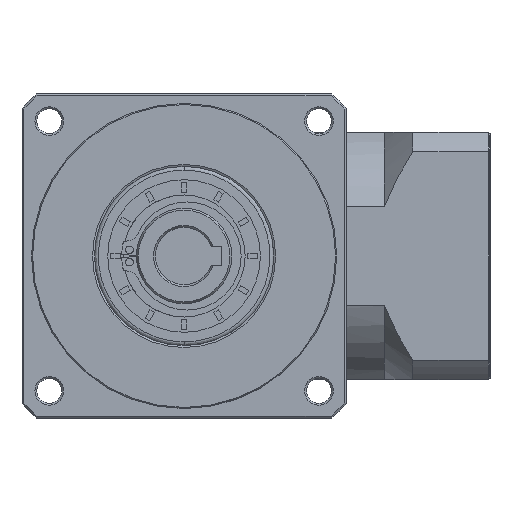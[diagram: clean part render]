
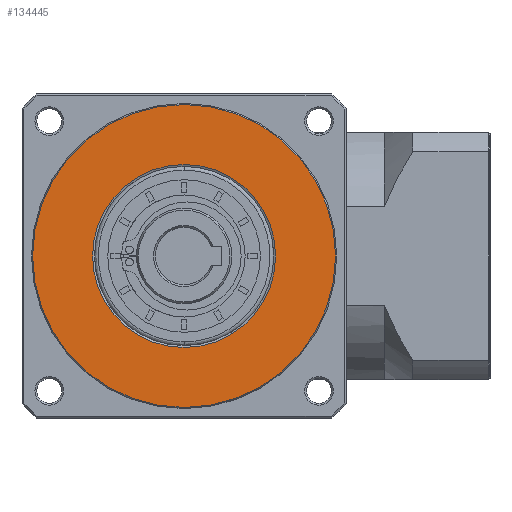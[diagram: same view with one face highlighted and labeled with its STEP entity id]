
A CAD part, left-side view. The second image highlights one B-rep face of the part: STEP entity #134445.
In plain terms, the highlighted planar face has unit normal (-1, 0, 0).
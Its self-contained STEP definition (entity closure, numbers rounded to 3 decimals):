
#2769 = CIRCLE ( 'NONE', #94531, 39.711 ) ;
#15145 = CARTESIAN_POINT ( 'NONE',  ( -137.102, -59.286, -107.407 ) ) ;
#16594 = AXIS2_PLACEMENT_3D ( 'NONE', #66263, #159171, #79654 ) ;
#23774 = PLANE ( 'NONE',  #138455 ) ;
#25245 = CIRCLE ( 'NONE', #16594, 39.711 ) ;
#25366 = ORIENTED_EDGE ( 'NONE', *, *, #120846, .T. ) ;
#35394 = CARTESIAN_POINT ( 'NONE',  ( -137.102, -19.575, -107.407 ) ) ;
#35834 = EDGE_LOOP ( 'NONE', ( #162792, #79752 ) ) ;
#37741 = DIRECTION ( 'NONE',  ( -1., 0., 0. ) ) ;
#45846 = CARTESIAN_POINT ( 'NONE',  ( -137.102, -19.575, -131.407 ) ) ;
#48780 = DIRECTION ( 'NONE',  ( 0., 1., 0. ) ) ;
#52236 = FACE_BOUND ( 'NONE', #96893, .T. ) ;
#52487 = AXIS2_PLACEMENT_3D ( 'NONE', #57234, #150199, #70604 ) ;
#57234 = CARTESIAN_POINT ( 'NONE',  ( -137.102, -19.575, -107.407 ) ) ;
#66263 = CARTESIAN_POINT ( 'NONE',  ( -137.102, -19.575, -107.407 ) ) ;
#70604 = DIRECTION ( 'NONE',  ( 0., 0., -1. ) ) ;
#70942 = CARTESIAN_POINT ( 'NONE',  ( -137.102, -19.575, -107.407 ) ) ;
#79257 = CIRCLE ( 'NONE', #102569, 24. ) ;
#79654 = DIRECTION ( 'NONE',  ( 0., 1., 0. ) ) ;
#79752 = ORIENTED_EDGE ( 'NONE', *, *, #81105, .F. ) ;
#81105 = EDGE_CURVE ( 'NONE', #134070, #142584, #25245, .T. ) ;
#84349 = DIRECTION ( 'NONE',  ( 0., 0., -1. ) ) ;
#93143 = CARTESIAN_POINT ( 'NONE',  ( -137.102, 20.136, -107.407 ) ) ;
#94531 = AXIS2_PLACEMENT_3D ( 'NONE', #35394, #128394, #48780 ) ;
#96893 = EDGE_LOOP ( 'NONE', ( #106069, #25366 ) ) ;
#99361 = CARTESIAN_POINT ( 'NONE',  ( -137.102, -19.575, -83.407 ) ) ;
#100419 = VERTEX_POINT ( 'NONE', #99361 ) ;
#102569 = AXIS2_PLACEMENT_3D ( 'NONE', #70942, #163839, #84349 ) ;
#106069 = ORIENTED_EDGE ( 'NONE', *, *, #139090, .T. ) ;
#117431 = CARTESIAN_POINT ( 'NONE',  ( -137.102, -19.575, -107.407 ) ) ;
#120056 = VERTEX_POINT ( 'NONE', #45846 ) ;
#120846 = EDGE_CURVE ( 'NONE', #100419, #120056, #142311, .T. ) ;
#122894 = FACE_OUTER_BOUND ( 'NONE', #35834, .T. ) ;
#128394 = DIRECTION ( 'NONE',  ( 1., 0., 0. ) ) ;
#130728 = DIRECTION ( 'NONE',  ( 0., 0., -1. ) ) ;
#134070 = VERTEX_POINT ( 'NONE', #15145 ) ;
#134445 = ADVANCED_FACE ( 'NONE', ( #122894, #52236 ), #23774, .T. ) ;
#138455 = AXIS2_PLACEMENT_3D ( 'NONE', #117431, #37741, #130728 ) ;
#139090 = EDGE_CURVE ( 'NONE', #120056, #100419, #79257, .T. ) ;
#142311 = CIRCLE ( 'NONE', #52487, 24. ) ;
#142584 = VERTEX_POINT ( 'NONE', #93143 ) ;
#150199 = DIRECTION ( 'NONE',  ( 1., 0., 0. ) ) ;
#159171 = DIRECTION ( 'NONE',  ( 1., 0., 0. ) ) ;
#162792 = ORIENTED_EDGE ( 'NONE', *, *, #170644, .F. ) ;
#163839 = DIRECTION ( 'NONE',  ( 1., 0., 0. ) ) ;
#170644 = EDGE_CURVE ( 'NONE', #142584, #134070, #2769, .T. ) ;
